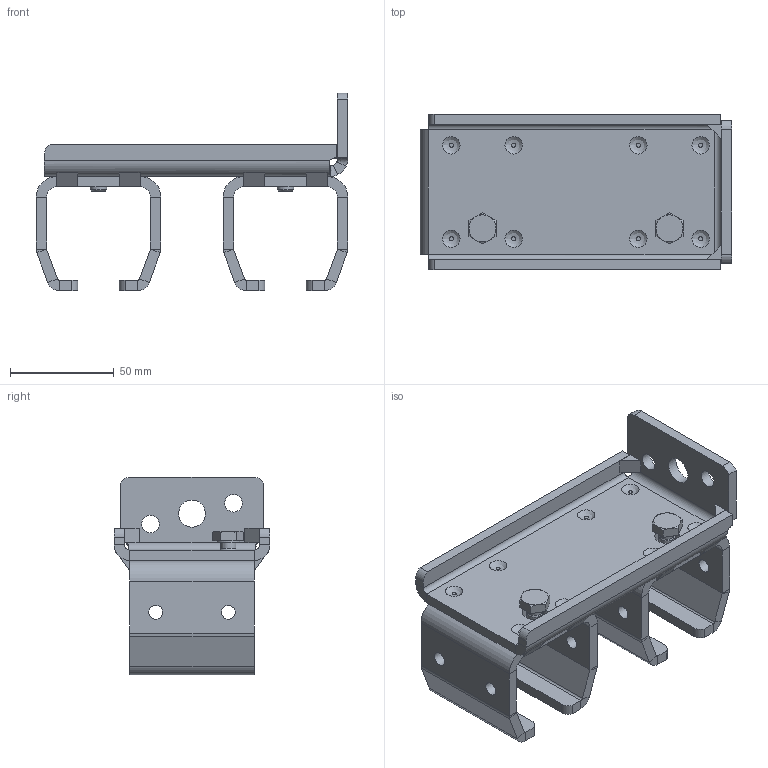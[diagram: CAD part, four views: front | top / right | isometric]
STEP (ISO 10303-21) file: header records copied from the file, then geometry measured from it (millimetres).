
FILE_DESCRIPTION(/* description */ ('Doppelte Wandbefestigung Nr.2'),/* implementation_level */ '2;1');
FILE_NAME(/* name */ 'Q:\sge-ma\Produktmanagement-STB\STB\Workspace\stp\010333020.stp',/* time_stamp */ '2015-03-10T13:01:23+01:00',/* author */ ('avschreier'),/* organization */ (''),/* preprocessor_version */ 'ST-DEVELOPER v15.6',/* originating_system */ 'Autodesk Inventor 2015',/* authorisation */ '');
FILE_SCHEMA (('CONFIG_CONTROL_DESIGN'));
Length unit declared in the file: millimetre
Products named in the file (5): 010333020_Schweißnähte; 337000286; 335140020; DIN_EN_ISO_4017-M8x16_en; 010333020
Bounding box: 150 x 75 x 95 mm (x, y, z)
Volume: 179723.4 mm3; surface area: 83719.2 mm2
Topology: 15 solids, 15 shells, 315 faces, 684 edges, 419 vertices
Faces by surface type: plane 198, cylinder 77, bspline 24, cone 16
Full cylindrical faces by diameter (mm): 6.647 x6, 6.8 x6, 7.323 x2, 8 x2, 8.5 x2, 11.4 x2, 12 x2, 13 x1
Entity records: 7942 total; most frequent: CARTESIAN_POINT 2903, DIRECTION 1035, ORIENTED_EDGE 964, EDGE_CURVE 482, AXIS2_PLACEMENT_3D 382, VERTEX_POINT 312, EDGE_LOOP 286, LINE 271
